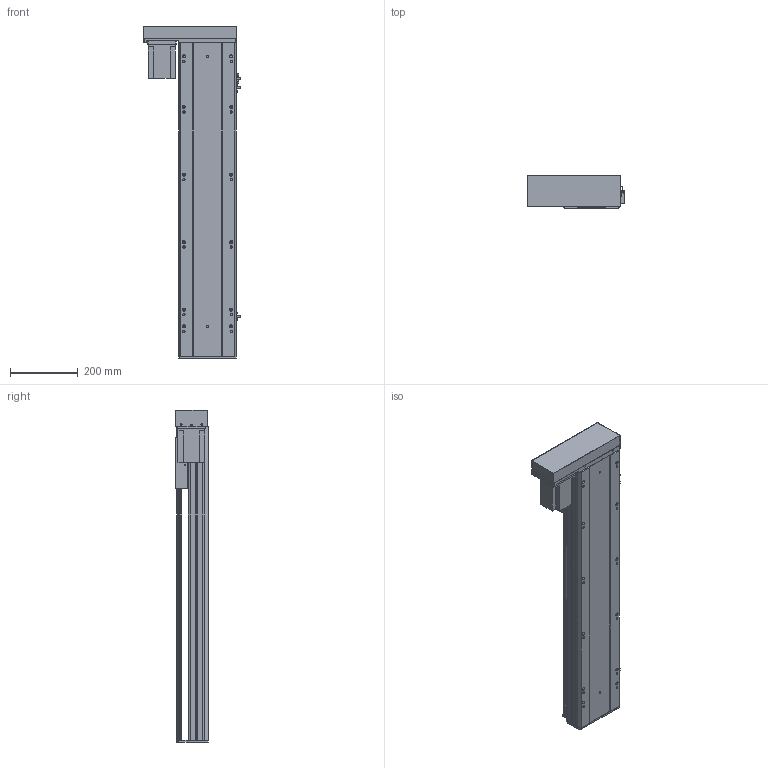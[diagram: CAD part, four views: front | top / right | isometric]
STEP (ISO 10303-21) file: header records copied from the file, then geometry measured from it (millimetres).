
FILE_DESCRIPTION (( 'STEP AP203' ), '1' );
FILE_NAME ('Y170-D10-S700-BL-P750W.STEP', '2020-01-19T23:00:01', ( '微软用户' ), ( '微软中国' ), 'SwSTEP 2.0', 'SolidWorks 2017', '' );
FILE_SCHEMA (( 'CONFIG_CONTROL_DESIGN' ));
Length unit declared in the file: millimetre
Products named in the file (12): Y--BL蟀諉啣-陔遴-; Y100-135俋离換覜ん; Y170-D10-S700-BL-P750W; 170--掛极-BR; Y170-BL-P750W楊擘啣; 侂狟750W; EGH20賑輸_蕼偞; Y雄赽釱-耜蚾; Y-BL.BR-俋欶; Y170耜裔--準---; Y170-陔遴奻裔-BR; YD-Y100-135-新外置传感挡片(通用）
Assembly tree (14 placements, depth 2):
  Y170-D10-S700-BL-P750W
    Y170耜裔--準---
    YD-Y100-135-新外置传感挡片(通用）
    Y100-135俋离換覜ん  x3
    170--掛极-BR
    Y170-BL-P750W楊擘啣
    侂狟750W
    EGH20賑輸_蕼偞  x2
    Y雄赽釱-耜蚾
    Y-BL.BR-俋欶
    Y170-陔遴奻裔-BR
    Y--BL蟀諉啣-陔遴-
Bounding box: 289 x 97 x 983.5 mm (x, y, z)
Volume: 4964701 mm3; surface area: 1689672.2 mm2
Topology: 14 solids, 14 shells, 921 faces, 2594 edges, 1712 vertices
Faces by surface type: cylinder 462, plane 443, cone 16
Entity records: 29130 total; most frequent: CARTESIAN_POINT 5150, DIRECTION 4828, ORIENTED_EDGE 4684, EDGE_CURVE 2342, AXIS2_PLACEMENT_3D 1714, VERTEX_POINT 1556, LINE 1400, VECTOR 1400
